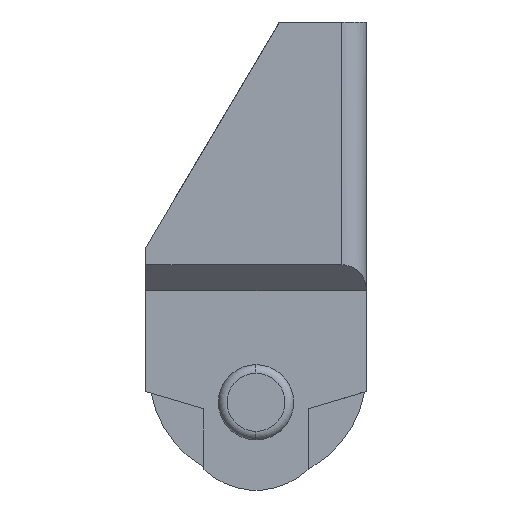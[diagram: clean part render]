
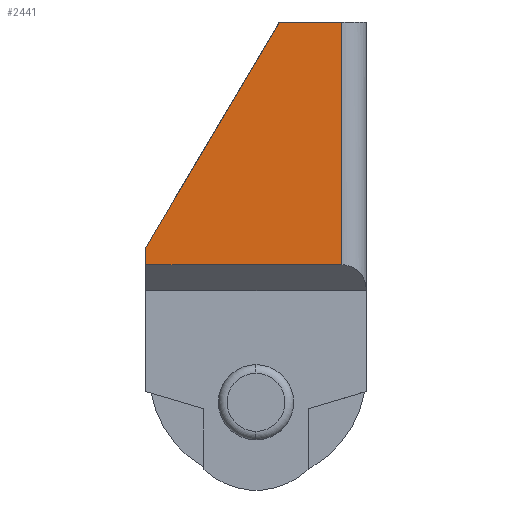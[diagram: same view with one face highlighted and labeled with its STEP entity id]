
A CAD part, left-side view. The second image highlights one B-rep face of the part: STEP entity #2441.
In plain terms, the highlighted planar face has unit normal (-1, 0, 0).
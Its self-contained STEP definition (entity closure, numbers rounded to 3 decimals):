
#4 = CARTESIAN_POINT ( 'NONE',  ( -12.5, 12.7, -13. ) ) ;
#51 = DIRECTION ( 'NONE',  ( 0., 1., 0. ) ) ;
#142 = VECTOR ( 'NONE', #51, 1000. ) ;
#193 = CARTESIAN_POINT ( 'NONE',  ( -12.5, 1.4, 0. ) ) ;
#246 = FACE_OUTER_BOUND ( 'NONE', #2888, .T. ) ;
#332 = EDGE_CURVE ( 'NONE', #2712, #527, #2921, .T. ) ;
#373 = VERTEX_POINT ( 'NONE', #4 ) ;
#404 = CARTESIAN_POINT ( 'NONE',  ( -12.5, 12.7, -14. ) ) ;
#480 = AXIS2_PLACEMENT_3D ( 'NONE', #2972, #1383, #1327 ) ;
#503 = CARTESIAN_POINT ( 'NONE',  ( -12.5, 0., 0. ) ) ;
#527 = VERTEX_POINT ( 'NONE', #193 ) ;
#614 = VECTOR ( 'NONE', #2211, 1000. ) ;
#1291 = VECTOR ( 'NONE', #1381, 1000. ) ;
#1315 = EDGE_CURVE ( 'NONE', #1629, #527, #2775, .T. ) ;
#1327 = DIRECTION ( 'NONE',  ( 0., 0., 1. ) ) ;
#1348 = PLANE ( 'NONE',  #480 ) ;
#1381 = DIRECTION ( 'NONE',  ( 0., 0., 1. ) ) ;
#1383 = DIRECTION ( 'NONE',  ( -1., 0., 0. ) ) ;
#1457 = VECTOR ( 'NONE', #1538, 1000. ) ;
#1491 = ORIENTED_EDGE ( 'NONE', *, *, #2608, .F. ) ;
#1538 = DIRECTION ( 'NONE',  ( 0., 0., 1. ) ) ;
#1629 = VERTEX_POINT ( 'NONE', #2736 ) ;
#1642 = CARTESIAN_POINT ( 'NONE',  ( -12.5, 0., -14. ) ) ;
#1802 = LINE ( 'NONE', #2599, #1457 ) ;
#1985 = CARTESIAN_POINT ( 'NONE',  ( -12.5, 1.4, 0. ) ) ;
#2070 = EDGE_CURVE ( 'NONE', #373, #2712, #2962, .T. ) ;
#2187 = VECTOR ( 'NONE', #2344, 1000. ) ;
#2211 = DIRECTION ( 'NONE',  ( 0., -0.51, 0.86 ) ) ;
#2216 = LINE ( 'NONE', #1642, #142 ) ;
#2344 = DIRECTION ( 'NONE',  ( 0., -1., 0. ) ) ;
#2399 = CARTESIAN_POINT ( 'NONE',  ( -12.5, 5., 0. ) ) ;
#2441 = ADVANCED_FACE ( 'NONE', ( #246 ), #1348, .T. ) ;
#2468 = CARTESIAN_POINT ( 'NONE',  ( -12.5, 5., 0. ) ) ;
#2481 = EDGE_CURVE ( 'NONE', #1629, #2623, #2216, .T. ) ;
#2493 = ORIENTED_EDGE ( 'NONE', *, *, #2481, .F. ) ;
#2572 = ORIENTED_EDGE ( 'NONE', *, *, #1315, .T. ) ;
#2599 = CARTESIAN_POINT ( 'NONE',  ( -12.5, 12.7, -13. ) ) ;
#2608 = EDGE_CURVE ( 'NONE', #2623, #373, #1802, .T. ) ;
#2623 = VERTEX_POINT ( 'NONE', #404 ) ;
#2712 = VERTEX_POINT ( 'NONE', #2399 ) ;
#2715 = ORIENTED_EDGE ( 'NONE', *, *, #2070, .F. ) ;
#2736 = CARTESIAN_POINT ( 'NONE',  ( -12.5, 1.4, -14. ) ) ;
#2775 = LINE ( 'NONE', #1985, #1291 ) ;
#2888 = EDGE_LOOP ( 'NONE', ( #2493, #2572, #3189, #2715, #1491 ) ) ;
#2921 = LINE ( 'NONE', #503, #2187 ) ;
#2962 = LINE ( 'NONE', #2468, #614 ) ;
#2972 = CARTESIAN_POINT ( 'NONE',  ( -12.5, 6.35, -22.65 ) ) ;
#3189 = ORIENTED_EDGE ( 'NONE', *, *, #332, .F. ) ;
